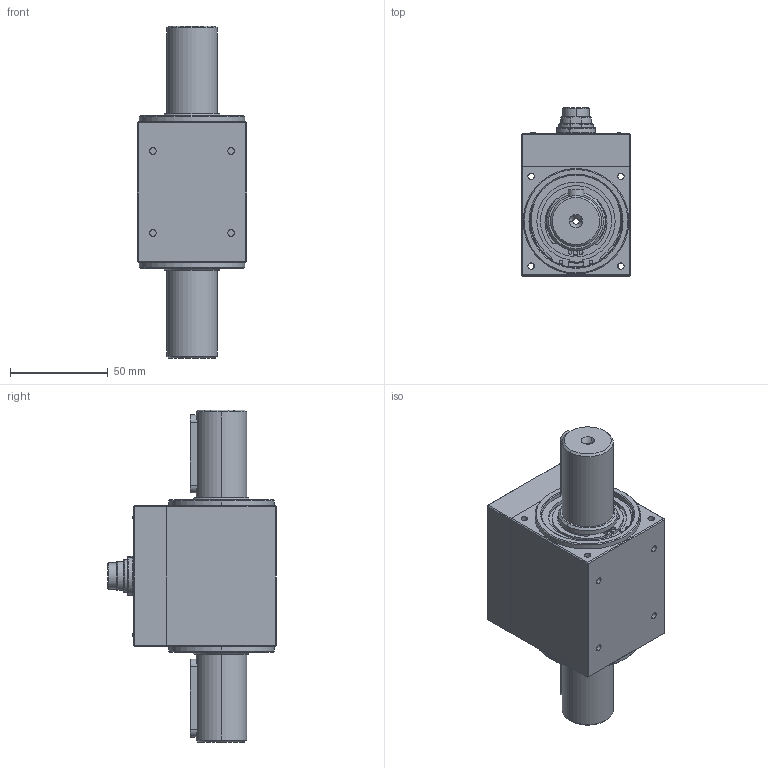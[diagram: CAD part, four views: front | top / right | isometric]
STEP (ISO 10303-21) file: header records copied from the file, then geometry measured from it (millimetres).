
FILE_DESCRIPTION (( 'STEP AP214' ), '1' );
FILE_NAME ('DRVL-III mit Passfedernut.STEP', '2018-01-09T15:35:55', ( 'nsi' ), ( '' ), 'SwSTEP 2.0', 'SolidWorks 2018', '' );
FILE_SCHEMA (( 'AUTOMOTIVE_DESIGN' ));
Length unit declared in the file: millimetre
Products named in the file (2): DRVL-III mit Passfedernut
Bounding box: 56 x 86.1 x 170 mm (x, y, z)
Surface area: 50477.2 mm2 (no closed solid volume)
Topology: 0 solids, 22 shells, 345 faces, 967 edges, 652 vertices
Faces by surface type: cylinder 131, plane 109, cone 54, torus 45, sphere 6
Entity records: 14522 total; most frequent: CARTESIAN_POINT 2373, DIRECTION 2171, ORIENTED_EDGE 1627, EDGE_CURVE 967, AXIS2_PLACEMENT_3D 891, VERTEX_POINT 652, CIRCLE 544, EDGE_LOOP 416
